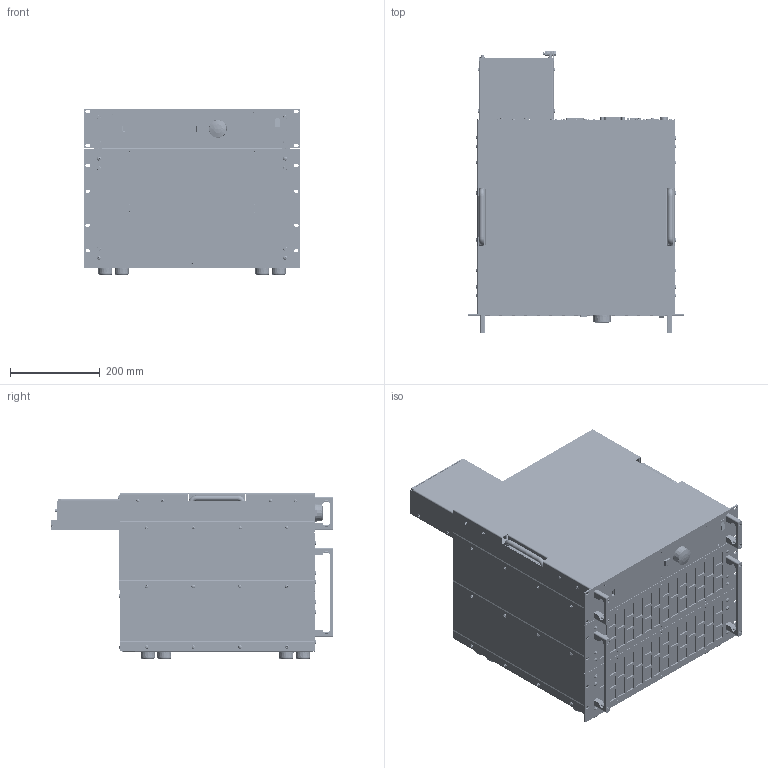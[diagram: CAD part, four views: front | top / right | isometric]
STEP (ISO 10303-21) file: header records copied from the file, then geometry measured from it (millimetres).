
FILE_DESCRIPTION(('STEP AP214'),'1');
FILE_NAME('QL_M15_19Z_8HE_FKS25_10_SM10_3D_01.step','2022-03-17T09:42:38',(' '),(' '),'Spatial InterOp 3D',' ',' ');
FILE_SCHEMA(('AUTOMOTIVE_DESIGN { 1 0 10303 214 1 1 1 1 }'));
Length unit declared in the file: millimetre
Products named in the file (55): DIN 7985-AxM4 X 0.7x5; 3HE_Leistungsteil_mit_Gummifüssen_3D_01; *U404; *U405; *U406; *U415; AutoCreatedBlock_4425; 3HE_Leistungsteil_3D_01; *U519; *U520; *U521; AutoCreatedBlock_4451; DIN 966-A; Steuereinheit_CU25X10_mit_BG441_3D_01; 2121_Steuerteil_modular_Seitenteil_links_3D_02; 2122_Steuerteil_modular_Seitenteil_rechts_3D_02; A$C5EF2ED09; 3xM2.5_5x5x12; AutoCreatedBlock_4471; A$C6092449D; Frontplatte_5HE_Steuerteil_mit_Einbauten_3D; A$C60925E47; A$C60A76697; BG441_mit_MT1955_3D_01; *U806; AutoCreatedBlock_4483; 2246_QL Rückwand Steuerteil 5HE_mit_Einbauten_3D_01; *U305; *U306; *U307; AutoCreatedBlock_4487; 2257_QL_IO Panel Standard_3D_01; 2084_IO-Port Abdeckung_3D_01; *U889; *U890; *U891; *U892; *U893; *U894; Eingansschienen_CU25X10_3D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
Assembly tree (186 placements, depth 4):
  (unnamed)
    DIN 7985-AxM4 X 0.7x5  x4
    3HE_Leistungsteil_mit_Gummifüssen_3D_01
      *U404  x10
      *U405  x6
      *U406  x6
      *U415  x6
      AutoCreatedBlock_4425
    3HE_Leistungsteil_3D_01
      *U519  x14
      *U520  x6
      *U521  x6
      AutoCreatedBlock_4451
    DIN 966-A  x5
    Steuereinheit_CU25X10_mit_BG441_3D_01
      2121_Steuerteil_modular_Seitenteil_links_3D_02
      2122_Steuerteil_modular_Seitenteil_rechts_3D_02
      A$C5EF2ED09
        3xM2.5_5x5x12  x2
        AutoCreatedBlock_4471
      A$C6092449D
      Frontplatte_5HE_Steuerteil_mit_Einbauten_3D
      A$C60925E47
      A$C60A76697
      BG441_mit_MT1955_3D_01
        *U806  x2
        AutoCreatedBlock_4483
      2246_QL Rückwand Steuerteil 5HE_mit_Einbauten_3D_01
        *U305
        *U306  x2
        *U307  x3
        AutoCreatedBlock_4487
      2257_QL_IO Panel Standard_3D_01
      2084_IO-Port Abdeckung_3D_01  x2
      *U889  x17
      *U890  x9
      *U891  x2
      *U892  x4
      *U893  x2
      *U894  x2
      Eingansschienen_CU25X10_3D
      *U895  x26
      SAB_QL-5
        *U791
        *U792  x2
        *U793  x3
        *U794  x2
        *U795  x8
        *U796  x4
        *U797  x2
        *U798  x2
        AutoCreatedBlock_4515
      *U904  x2
      AutoCreatedBlock_4461
    AutoCreatedBlock_4419
Bounding box: 482.61 x 630.75 x 371.22 mm (x, y, z)
Volume: 32019298.5 mm3; surface area: 4890440.4 mm2
Topology: 470 solids, 826 shells, 30367 faces, 75656 edges, 47276 vertices
Faces by surface type: plane 12764, cone 12011, cylinder 4564, torus 441, sphere 294, bspline 277, extrusion 16
Entity records: 921513 total; most frequent: CARTESIAN_POINT 166237, DIRECTION 121973, ORIENTED_EDGE 113640, EDGE_CURVE 57985, AXIS2_PLACEMENT_3D 42281, VECTOR 37411, LINE 37395, VERTEX_POINT 36450
